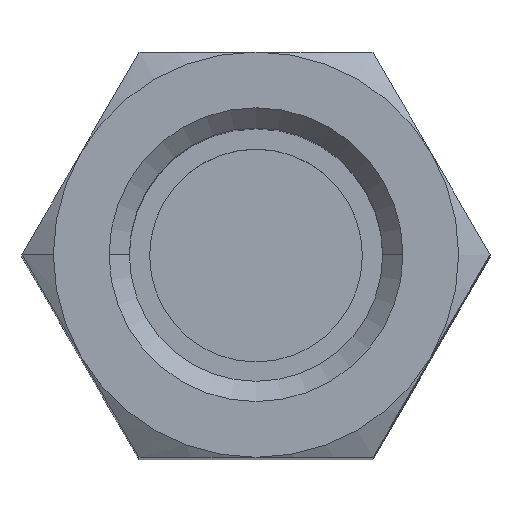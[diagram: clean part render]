
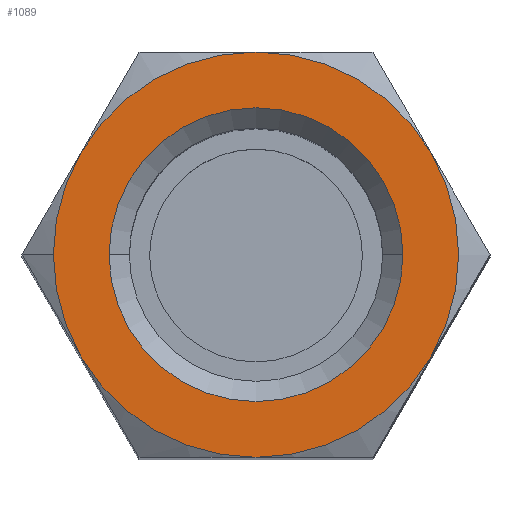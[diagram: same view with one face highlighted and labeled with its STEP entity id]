
A CAD part, top view. The second image highlights one B-rep face of the part: STEP entity #1089.
In plain terms, the highlighted planar face has unit normal (0, 0, 1).
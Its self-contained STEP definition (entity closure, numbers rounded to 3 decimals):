
#1 = CARTESIAN_POINT ( 'NONE',  ( 0., 0., 15. ) ) ;
#7 = AXIS2_PLACEMENT_3D ( 'NONE', #228, #934, #208 ) ;
#25 = CARTESIAN_POINT ( 'NONE',  ( 2.9, 0., 15. ) ) ;
#50 = CARTESIAN_POINT ( 'NONE',  ( 0., 0., 15. ) ) ;
#51 = CARTESIAN_POINT ( 'NONE',  ( 3.464, -2., 15. ) ) ;
#75 = ORIENTED_EDGE ( 'NONE', *, *, #220, .T. ) ;
#77 = VERTEX_POINT ( 'NONE', #51 ) ;
#114 = EDGE_CURVE ( 'NONE', #971, #1044, #1045, .T. ) ;
#132 = CIRCLE ( 'NONE', #390, 4. ) ;
#141 = DIRECTION ( 'NONE',  ( 0., 0., -1. ) ) ;
#151 = CIRCLE ( 'NONE', #7, 4. ) ;
#153 = AXIS2_PLACEMENT_3D ( 'NONE', #357, #702, #1069 ) ;
#174 = EDGE_CURVE ( 'NONE', #490, #77, #738, .T. ) ;
#182 = CARTESIAN_POINT ( 'NONE',  ( -2.9, 0., 15. ) ) ;
#189 = CARTESIAN_POINT ( 'NONE',  ( 0., 0., 15. ) ) ;
#205 = CARTESIAN_POINT ( 'NONE',  ( -3.464, -2., 15. ) ) ;
#208 = DIRECTION ( 'NONE',  ( -1., 0., 0. ) ) ;
#220 = EDGE_CURVE ( 'NONE', #805, #840, #132, .T. ) ;
#228 = CARTESIAN_POINT ( 'NONE',  ( 0., 0., 15. ) ) ;
#229 = CARTESIAN_POINT ( 'NONE',  ( 0., 0., 15. ) ) ;
#230 = CARTESIAN_POINT ( 'NONE',  ( 0., 0., 15. ) ) ;
#252 = VERTEX_POINT ( 'NONE', #875 ) ;
#323 = ORIENTED_EDGE ( 'NONE', *, *, #577, .T. ) ;
#334 = VERTEX_POINT ( 'NONE', #25 ) ;
#339 = AXIS2_PLACEMENT_3D ( 'NONE', #189, #355, #914 ) ;
#355 = DIRECTION ( 'NONE',  ( 0., 0., -1. ) ) ;
#357 = CARTESIAN_POINT ( 'NONE',  ( 0., 0., 15. ) ) ;
#374 = AXIS2_PLACEMENT_3D ( 'NONE', #1, #711, #433 ) ;
#390 = AXIS2_PLACEMENT_3D ( 'NONE', #869, #517, #963 ) ;
#392 = CARTESIAN_POINT ( 'NONE',  ( -4., 0., 15. ) ) ;
#397 = DIRECTION ( 'NONE',  ( 0., 0., 1. ) ) ;
#433 = DIRECTION ( 'NONE',  ( -1., 0., 0. ) ) ;
#439 = CARTESIAN_POINT ( 'NONE',  ( 0., 4., 15. ) ) ;
#467 = AXIS2_PLACEMENT_3D ( 'NONE', #50, #397, #1115 ) ;
#468 = CIRCLE ( 'NONE', #482, 2.9 ) ;
#482 = AXIS2_PLACEMENT_3D ( 'NONE', #230, #141, #946 ) ;
#490 = VERTEX_POINT ( 'NONE', #939 ) ;
#499 = CIRCLE ( 'NONE', #339, 2.9 ) ;
#502 = ORIENTED_EDGE ( 'NONE', *, *, #174, .T. ) ;
#515 = EDGE_CURVE ( 'NONE', #77, #252, #151, .T. ) ;
#517 = DIRECTION ( 'NONE',  ( 0., 0., 1. ) ) ;
#518 = FACE_BOUND ( 'NONE', #581, .T. ) ;
#519 = AXIS2_PLACEMENT_3D ( 'NONE', #980, #529, #799 ) ;
#529 = DIRECTION ( 'NONE',  ( 0., 0., 1. ) ) ;
#557 = CIRCLE ( 'NONE', #467, 4. ) ;
#577 = EDGE_CURVE ( 'NONE', #840, #490, #557, .T. ) ;
#581 = EDGE_LOOP ( 'NONE', ( #848, #832 ) ) ;
#636 = EDGE_CURVE ( 'NONE', #334, #679, #499, .T. ) ;
#663 = AXIS2_PLACEMENT_3D ( 'NONE', #763, #1130, #673 ) ;
#668 = EDGE_CURVE ( 'NONE', #252, #1044, #681, .T. ) ;
#673 = DIRECTION ( 'NONE',  ( -1., 0., 0. ) ) ;
#679 = VERTEX_POINT ( 'NONE', #182 ) ;
#681 = CIRCLE ( 'NONE', #519, 4. ) ;
#702 = DIRECTION ( 'NONE',  ( 0., 0., -1. ) ) ;
#703 = CIRCLE ( 'NONE', #663, 4. ) ;
#711 = DIRECTION ( 'NONE',  ( 0., 0., 1. ) ) ;
#738 = CIRCLE ( 'NONE', #374, 4. ) ;
#750 = CARTESIAN_POINT ( 'NONE',  ( -3.464, 2., 15. ) ) ;
#763 = CARTESIAN_POINT ( 'NONE',  ( 0., 0., 15. ) ) ;
#799 = DIRECTION ( 'NONE',  ( -1., 0., 0. ) ) ;
#805 = VERTEX_POINT ( 'NONE', #392 ) ;
#832 = ORIENTED_EDGE ( 'NONE', *, *, #912, .T. ) ;
#840 = VERTEX_POINT ( 'NONE', #205 ) ;
#848 = ORIENTED_EDGE ( 'NONE', *, *, #636, .T. ) ;
#869 = CARTESIAN_POINT ( 'NONE',  ( 0., 0., 15. ) ) ;
#875 = CARTESIAN_POINT ( 'NONE',  ( 3.464, 2., 15. ) ) ;
#880 = AXIS2_PLACEMENT_3D ( 'NONE', #229, #941, #945 ) ;
#885 = FACE_OUTER_BOUND ( 'NONE', #888, .T. ) ;
#888 = EDGE_LOOP ( 'NONE', ( #1010, #75, #323, #502, #943, #1057, #1143 ) ) ;
#903 = EDGE_CURVE ( 'NONE', #971, #805, #703, .T. ) ;
#912 = EDGE_CURVE ( 'NONE', #679, #334, #468, .T. ) ;
#914 = DIRECTION ( 'NONE',  ( -1., 0., 0. ) ) ;
#934 = DIRECTION ( 'NONE',  ( 0., 0., 1. ) ) ;
#939 = CARTESIAN_POINT ( 'NONE',  ( 0., -4., 15. ) ) ;
#941 = DIRECTION ( 'NONE',  ( 0., 0., -1. ) ) ;
#943 = ORIENTED_EDGE ( 'NONE', *, *, #515, .T. ) ;
#945 = DIRECTION ( 'NONE',  ( -1., 0., 0. ) ) ;
#946 = DIRECTION ( 'NONE',  ( -1., 0., 0. ) ) ;
#963 = DIRECTION ( 'NONE',  ( -1., 0., 0. ) ) ;
#971 = VERTEX_POINT ( 'NONE', #750 ) ;
#976 = PLANE ( 'NONE',  #153 ) ;
#980 = CARTESIAN_POINT ( 'NONE',  ( 0., 0., 15. ) ) ;
#1010 = ORIENTED_EDGE ( 'NONE', *, *, #903, .T. ) ;
#1044 = VERTEX_POINT ( 'NONE', #439 ) ;
#1045 = CIRCLE ( 'NONE', #880, 4. ) ;
#1057 = ORIENTED_EDGE ( 'NONE', *, *, #668, .T. ) ;
#1069 = DIRECTION ( 'NONE',  ( 1., 0., 0. ) ) ;
#1089 = ADVANCED_FACE ( 'NONE', ( #518, #885 ), #976, .F. ) ;
#1115 = DIRECTION ( 'NONE',  ( -1., 0., 0. ) ) ;
#1130 = DIRECTION ( 'NONE',  ( 0., 0., 1. ) ) ;
#1143 = ORIENTED_EDGE ( 'NONE', *, *, #114, .F. ) ;
